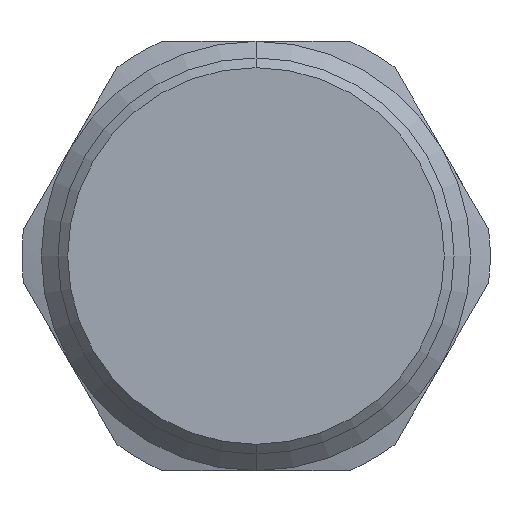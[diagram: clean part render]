
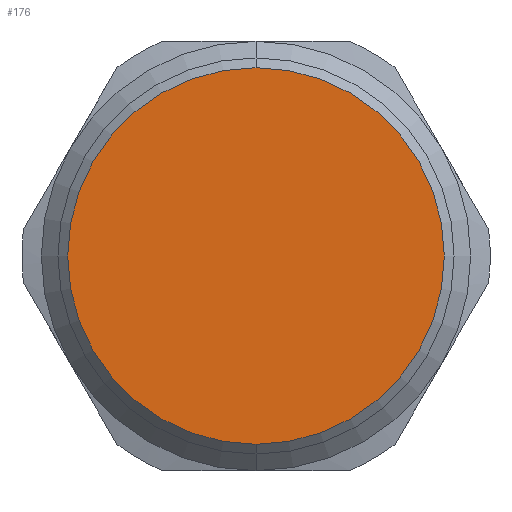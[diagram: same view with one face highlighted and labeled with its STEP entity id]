
A CAD part, front view. The second image highlights one B-rep face of the part: STEP entity #176.
In plain terms, the highlighted planar face has unit normal (0, -1, 0).
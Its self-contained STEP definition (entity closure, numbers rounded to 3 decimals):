
#151=CARTESIAN_POINT('',(0.0,-36.5,9.65));
#152=VERTEX_POINT('',#151);
#153=CARTESIAN_POINT('',(0.0,-36.5,-9.65));
#154=VERTEX_POINT('',#153);
#155=CARTESIAN_POINT('',(0.0,-36.5,0.0));
#156=DIRECTION('',(0.0,-1.0,0.0));
#157=DIRECTION('',(0.0,0.0,1.0));
#158=AXIS2_PLACEMENT_3D('',#155,#156,#157);
#159=CIRCLE('',#158,9.65);
#160=EDGE_CURVE('no 707',#152,#154,#159,.T.);
#161=ORIENTED_EDGE('',*,*,#160,.T.);
#162=CARTESIAN_POINT('',(0.0,-36.5,0.0));
#163=DIRECTION('',(0.0,-1.0,0.0));
#164=DIRECTION('',(0.0,0.0,1.0));
#165=AXIS2_PLACEMENT_3D('',#162,#163,#164);
#166=CIRCLE('',#165,9.65);
#167=EDGE_CURVE('no 711',#154,#152,#166,.T.);
#168=ORIENTED_EDGE('',*,*,#167,.T.);
#169=EDGE_LOOP('',(#161,#168));
#170=FACE_OUTER_BOUND('',#169,.T.);
#171=CARTESIAN_POINT('',(0.0,-36.5,0.0));
#172=DIRECTION('',(0.0,1.0,0.0));
#173=DIRECTION('',(0.0,0.0,1.0));
#174=AXIS2_PLACEMENT_3D('',#171,#172,#173);
#175=PLANE('',#174);
#176=ADVANCED_FACE('no 698',(#170),#175,.F.);
